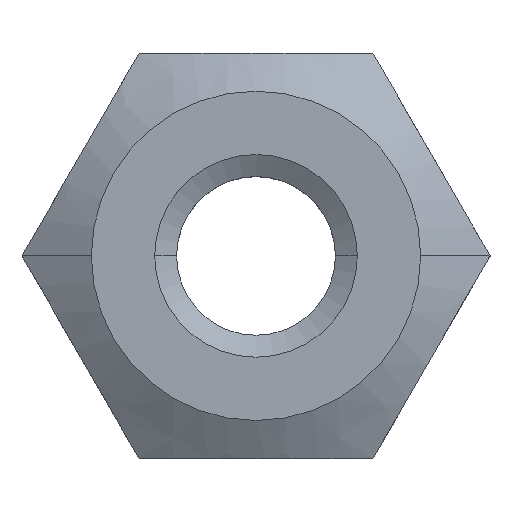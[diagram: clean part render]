
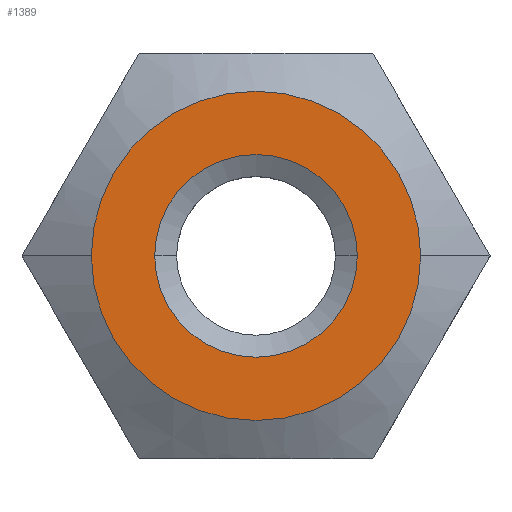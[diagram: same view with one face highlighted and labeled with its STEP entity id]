
A CAD part, top view. The second image highlights one B-rep face of the part: STEP entity #1389.
In plain terms, the highlighted planar face has unit normal (0, 0, 1).
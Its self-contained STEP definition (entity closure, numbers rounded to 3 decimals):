
#24 = VERTEX_POINT('',#25);
#25 = CARTESIAN_POINT('',(1.,0.,0.));
#32 = CONICAL_SURFACE('',#33,0.784,1.047);
#33 = AXIS2_PLACEMENT_3D('',#34,#35,#36);
#34 = CARTESIAN_POINT('',(0.,0.,-0.125));
#35 = DIRECTION('',(0.,0.,1.));
#36 = DIRECTION('',(1.,0.,-0.));
#44 = CONICAL_SURFACE('',#45,0.784,1.047);
#45 = AXIS2_PLACEMENT_3D('',#46,#47,#48);
#46 = CARTESIAN_POINT('',(0.,0.,-0.125));
#47 = DIRECTION('',(0.,0.,1.));
#48 = DIRECTION('',(1.,0.,-0.));
#56 = EDGE_CURVE('',#24,#57,#59,.T.);
#57 = VERTEX_POINT('',#58);
#58 = CARTESIAN_POINT('',(-1.,0.,0.));
#59 = SURFACE_CURVE('',#60,(#65,#72),.PCURVE_S1.);
#60 = CIRCLE('',#61,1.);
#61 = AXIS2_PLACEMENT_3D('',#62,#63,#64);
#62 = CARTESIAN_POINT('',(0.,0.,0.));
#63 = DIRECTION('',(0.,0.,-1.));
#64 = DIRECTION('',(1.,0.,0.));
#65 = PCURVE('',#32,#66);
#66 = DEFINITIONAL_REPRESENTATION('',(#67),#71);
#67 = LINE('',#68,#69);
#68 = CARTESIAN_POINT('',(6.283,0.125));
#69 = VECTOR('',#70,1.);
#70 = DIRECTION('',(-1.,0.));
#71 = ( GEOMETRIC_REPRESENTATION_CONTEXT(2) 
PARAMETRIC_REPRESENTATION_CONTEXT() REPRESENTATION_CONTEXT('2D SPACE',''
  ) );
#72 = PCURVE('',#73,#78);
#73 = PLANE('',#74);
#74 = AXIS2_PLACEMENT_3D('',#75,#76,#77);
#75 = CARTESIAN_POINT('',(2.309,0.,0.));
#76 = DIRECTION('',(0.,-0.,1.));
#77 = DIRECTION('',(1.,0.,0.));
#78 = DEFINITIONAL_REPRESENTATION('',(#79),#87);
#79 = ( BOUNDED_CURVE() B_SPLINE_CURVE(2,(#80,#81,#82,#83,#84,#85,#86),
.UNSPECIFIED.,.T.,.F.) B_SPLINE_CURVE_WITH_KNOTS((1,2,2,2,2,1),(
    -2.094,0.,2.094,4.189,6.283,
8.378),.UNSPECIFIED.) CURVE() GEOMETRIC_REPRESENTATION_ITEM() 
RATIONAL_B_SPLINE_CURVE((1.,0.5,1.,0.5,1.,0.5,1.)) REPRESENTATION_ITEM(
  '') );
#80 = CARTESIAN_POINT('',(-1.309,0.));
#81 = CARTESIAN_POINT('',(-1.309,-1.732));
#82 = CARTESIAN_POINT('',(-2.809,-0.866));
#83 = CARTESIAN_POINT('',(-4.309,0.));
#84 = CARTESIAN_POINT('',(-2.809,0.866));
#85 = CARTESIAN_POINT('',(-1.309,1.732));
#86 = CARTESIAN_POINT('',(-1.309,0.));
#87 = ( GEOMETRIC_REPRESENTATION_CONTEXT(2) 
PARAMETRIC_REPRESENTATION_CONTEXT() REPRESENTATION_CONTEXT('2D SPACE',''
  ) );
#254 = EDGE_CURVE('',#255,#257,#259,.T.);
#255 = VERTEX_POINT('',#256);
#256 = CARTESIAN_POINT('',(-1.625,0.,0.));
#257 = VERTEX_POINT('',#258);
#258 = CARTESIAN_POINT('',(1.625,0.,0.));
#259 = SURFACE_CURVE('',#260,(#265,#277),.PCURVE_S1.);
#260 = CIRCLE('',#261,1.625);
#261 = AXIS2_PLACEMENT_3D('',#262,#263,#264);
#262 = CARTESIAN_POINT('',(0.,0.,0.));
#263 = DIRECTION('',(-0.,0.,-1.));
#264 = DIRECTION('',(-1.,0.,0.));
#265 = PCURVE('',#266,#271);
#266 = CONICAL_SURFACE('',#267,1.625,1.047);
#267 = AXIS2_PLACEMENT_3D('',#268,#269,#270);
#268 = CARTESIAN_POINT('',(0.,0.,0.));
#269 = DIRECTION('',(-0.,-0.,-1.));
#270 = DIRECTION('',(-1.,0.,0.));
#271 = DEFINITIONAL_REPRESENTATION('',(#272),#276);
#272 = LINE('',#273,#274);
#273 = CARTESIAN_POINT('',(0.,0.));
#274 = VECTOR('',#275,1.);
#275 = DIRECTION('',(1.,0.));
#276 = ( GEOMETRIC_REPRESENTATION_CONTEXT(2) 
PARAMETRIC_REPRESENTATION_CONTEXT() REPRESENTATION_CONTEXT('2D SPACE',''
  ) );
#277 = PCURVE('',#73,#278);
#278 = DEFINITIONAL_REPRESENTATION('',(#279),#287);
#279 = ( BOUNDED_CURVE() B_SPLINE_CURVE(2,(#280,#281,#282,#283,#284,#285
,#286),.UNSPECIFIED.,.T.,.F.) B_SPLINE_CURVE_WITH_KNOTS((1,2,2,2,2,1),(
    -2.094,0.,2.094,4.189,6.283,
8.378),.UNSPECIFIED.) CURVE() GEOMETRIC_REPRESENTATION_ITEM() 
RATIONAL_B_SPLINE_CURVE((1.,0.5,1.,0.5,1.,0.5,1.)) REPRESENTATION_ITEM(
  '') );
#280 = CARTESIAN_POINT('',(-3.934,0.));
#281 = CARTESIAN_POINT('',(-3.934,2.815));
#282 = CARTESIAN_POINT('',(-1.497,1.407));
#283 = CARTESIAN_POINT('',(0.941,0.));
#284 = CARTESIAN_POINT('',(-1.497,-1.407));
#285 = CARTESIAN_POINT('',(-3.934,-2.815));
#286 = CARTESIAN_POINT('',(-3.934,0.));
#287 = ( GEOMETRIC_REPRESENTATION_CONTEXT(2) 
PARAMETRIC_REPRESENTATION_CONTEXT() REPRESENTATION_CONTEXT('2D SPACE',''
  ) );
#305 = CONICAL_SURFACE('',#306,1.625,1.047);
#306 = AXIS2_PLACEMENT_3D('',#307,#308,#309);
#307 = CARTESIAN_POINT('',(0.,0.,0.));
#308 = DIRECTION('',(-0.,-0.,-1.));
#309 = DIRECTION('',(-1.,0.,0.));
#1389 = ADVANCED_FACE('',(#1390,#1419),#73,.T.);
#1390 = FACE_BOUND('',#1391,.T.);
#1391 = EDGE_LOOP('',(#1392,#1393));
#1392 = ORIENTED_EDGE('',*,*,#56,.T.);
#1393 = ORIENTED_EDGE('',*,*,#1394,.T.);
#1394 = EDGE_CURVE('',#57,#24,#1395,.T.);
#1395 = SURFACE_CURVE('',#1396,(#1401,#1412),.PCURVE_S1.);
#1396 = CIRCLE('',#1397,1.);
#1397 = AXIS2_PLACEMENT_3D('',#1398,#1399,#1400);
#1398 = CARTESIAN_POINT('',(0.,0.,0.));
#1399 = DIRECTION('',(0.,0.,-1.));
#1400 = DIRECTION('',(1.,0.,0.));
#1401 = PCURVE('',#73,#1402);
#1402 = DEFINITIONAL_REPRESENTATION('',(#1403),#1411);
#1403 = ( BOUNDED_CURVE() B_SPLINE_CURVE(2,(#1404,#1405,#1406,#1407,
#1408,#1409,#1410),.UNSPECIFIED.,.T.,.F.) B_SPLINE_CURVE_WITH_KNOTS((1,2
    ,2,2,2,1),(-2.094,0.,2.094,4.189,
6.283,8.378),.UNSPECIFIED.) CURVE() 
GEOMETRIC_REPRESENTATION_ITEM() RATIONAL_B_SPLINE_CURVE((1.,0.5,1.,0.5,
1.,0.5,1.)) REPRESENTATION_ITEM('') );
#1404 = CARTESIAN_POINT('',(-1.309,0.));
#1405 = CARTESIAN_POINT('',(-1.309,-1.732));
#1406 = CARTESIAN_POINT('',(-2.809,-0.866));
#1407 = CARTESIAN_POINT('',(-4.309,0.));
#1408 = CARTESIAN_POINT('',(-2.809,0.866));
#1409 = CARTESIAN_POINT('',(-1.309,1.732));
#1410 = CARTESIAN_POINT('',(-1.309,0.));
#1411 = ( GEOMETRIC_REPRESENTATION_CONTEXT(2) 
PARAMETRIC_REPRESENTATION_CONTEXT() REPRESENTATION_CONTEXT('2D SPACE',''
  ) );
#1412 = PCURVE('',#44,#1413);
#1413 = DEFINITIONAL_REPRESENTATION('',(#1414),#1418);
#1414 = LINE('',#1415,#1416);
#1415 = CARTESIAN_POINT('',(6.283,0.125));
#1416 = VECTOR('',#1417,1.);
#1417 = DIRECTION('',(-1.,0.));
#1418 = ( GEOMETRIC_REPRESENTATION_CONTEXT(2) 
PARAMETRIC_REPRESENTATION_CONTEXT() REPRESENTATION_CONTEXT('2D SPACE',''
  ) );
#1419 = FACE_BOUND('',#1420,.T.);
#1420 = EDGE_LOOP('',(#1421,#1422));
#1421 = ORIENTED_EDGE('',*,*,#254,.F.);
#1422 = ORIENTED_EDGE('',*,*,#1423,.F.);
#1423 = EDGE_CURVE('',#257,#255,#1424,.T.);
#1424 = SURFACE_CURVE('',#1425,(#1430,#1441),.PCURVE_S1.);
#1425 = CIRCLE('',#1426,1.625);
#1426 = AXIS2_PLACEMENT_3D('',#1427,#1428,#1429);
#1427 = CARTESIAN_POINT('',(0.,0.,0.));
#1428 = DIRECTION('',(-0.,0.,-1.));
#1429 = DIRECTION('',(-1.,0.,0.));
#1430 = PCURVE('',#73,#1431);
#1431 = DEFINITIONAL_REPRESENTATION('',(#1432),#1440);
#1432 = ( BOUNDED_CURVE() B_SPLINE_CURVE(2,(#1433,#1434,#1435,#1436,
#1437,#1438,#1439),.UNSPECIFIED.,.T.,.F.) B_SPLINE_CURVE_WITH_KNOTS((1,2
    ,2,2,2,1),(-2.094,0.,2.094,4.189,
6.283,8.378),.UNSPECIFIED.) CURVE() 
GEOMETRIC_REPRESENTATION_ITEM() RATIONAL_B_SPLINE_CURVE((1.,0.5,1.,0.5,
1.,0.5,1.)) REPRESENTATION_ITEM('') );
#1433 = CARTESIAN_POINT('',(-3.934,0.));
#1434 = CARTESIAN_POINT('',(-3.934,2.815));
#1435 = CARTESIAN_POINT('',(-1.497,1.407));
#1436 = CARTESIAN_POINT('',(0.941,0.));
#1437 = CARTESIAN_POINT('',(-1.497,-1.407));
#1438 = CARTESIAN_POINT('',(-3.934,-2.815));
#1439 = CARTESIAN_POINT('',(-3.934,0.));
#1440 = ( GEOMETRIC_REPRESENTATION_CONTEXT(2) 
PARAMETRIC_REPRESENTATION_CONTEXT() REPRESENTATION_CONTEXT('2D SPACE',''
  ) );
#1441 = PCURVE('',#305,#1442);
#1442 = DEFINITIONAL_REPRESENTATION('',(#1443),#1447);
#1443 = LINE('',#1444,#1445);
#1444 = CARTESIAN_POINT('',(0.,0.));
#1445 = VECTOR('',#1446,1.);
#1446 = DIRECTION('',(1.,0.));
#1447 = ( GEOMETRIC_REPRESENTATION_CONTEXT(2) 
PARAMETRIC_REPRESENTATION_CONTEXT() REPRESENTATION_CONTEXT('2D SPACE',''
  ) );
